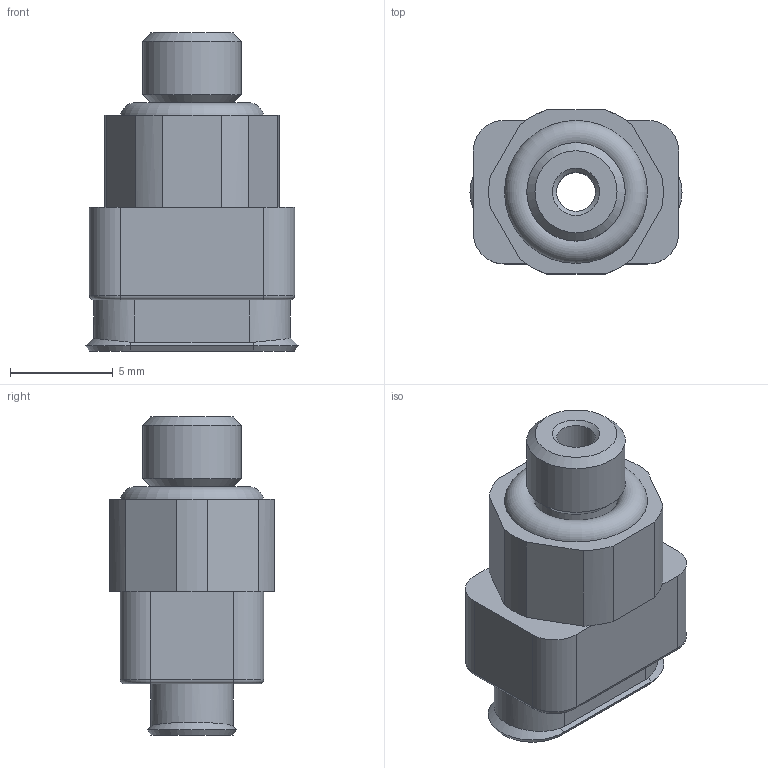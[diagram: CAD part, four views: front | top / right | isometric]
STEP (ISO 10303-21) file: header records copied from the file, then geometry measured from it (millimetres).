
FILE_DESCRIPTION( ( 'Unknown' ), '1' );
FILE_NAME( 'D:/New PAD/PAD-VOU/Part/STEP/VOU 4X10_M5M.stp', 'Unknown', ( 'Unknown' ), ( 'Unknown' ), 'XStep 1.0', 'Unknown', ' ' );
FILE_SCHEMA( ( 'automotive_design' ) );
Length unit declared in the file: millimetre
Products named in the file (1): Fitting-M5M VOU
Bounding box: 10.33 x 8 x 15.5 mm (x, y, z)
Volume: 665.2 mm3; surface area: 630.5 mm2
Topology: 1 solids, 1 shells, 59 faces, 141 edges, 87 vertices
Faces by surface type: plane 27, cylinder 20, cone 7, torus 5
Full cylindrical faces by diameter (mm): 1.9 x1, 3 x1, 4 x1, 4.8 x1
Entity records: 2204 total; most frequent: CARTESIAN_POINT 336, DIRECTION 310, ORIENTED_EDGE 264, EDGE_CURVE 132, AXIS2_PLACEMENT_3D 120, VERTEX_POINT 86, EDGE_LOOP 72, LINE 70
